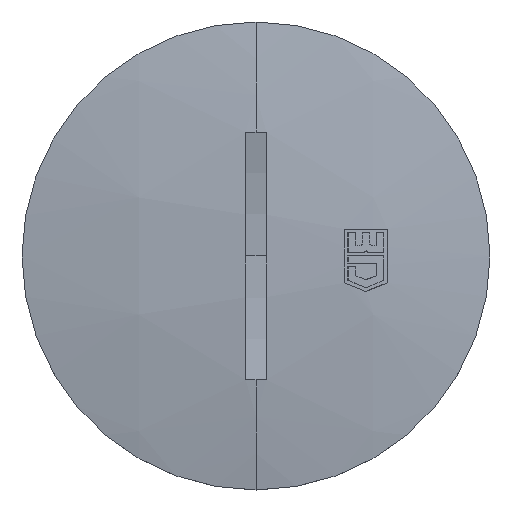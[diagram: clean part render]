
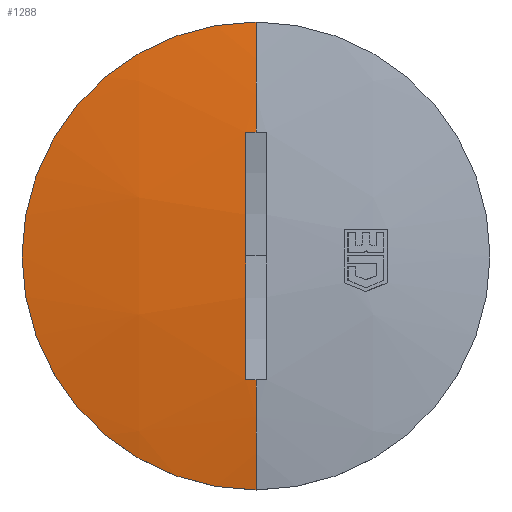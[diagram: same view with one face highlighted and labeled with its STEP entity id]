
A CAD part, top view. The second image highlights one B-rep face of the part: STEP entity #1288.
In plain terms, the highlighted spherical face has radius 127 mm.
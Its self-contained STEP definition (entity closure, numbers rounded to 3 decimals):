
#1 = CARTESIAN_POINT ( 'NONE',  ( -0.333, -11.913, 11.44 ) ) ;
#2 = DIRECTION ( 'NONE',  ( 0., 1., 0. ) ) ;
#3 = DIRECTION ( 'NONE',  ( 1., 0., 0. ) ) ;
#4 = CARTESIAN_POINT ( 'NONE',  ( 0., 0., -115. ) ) ;
#5 = AXIS2_PLACEMENT_3D ( 'NONE', #4, #3, #2 ) ;
#6 = CIRCLE ( 'NONE', #5, 127. ) ;
#7 = DIRECTION ( 'NONE',  ( 0., 1., 0. ) ) ;
#8 = DIRECTION ( 'NONE',  ( 1., 0., 0. ) ) ;
#9 = CARTESIAN_POINT ( 'NONE',  ( 0., 0., -115. ) ) ;
#10 = CIRCLE ( 'NONE', #21, 126.996 ) ;
#11 = B_SPLINE_CURVE_WITH_KNOTS ( 'NONE', 3,
 ( #18, #14, #1, #39 ),
 .UNSPECIFIED., .F., .F.,
 ( 4, 4 ),
 ( 0., 0.001 ),
 .UNSPECIFIED. ) ;
#12 = CARTESIAN_POINT ( 'NONE',  ( 0., 0., -115. ) ) ;
#14 = CARTESIAN_POINT ( 'NONE',  ( -0.667, -11.909, 11.439 ) ) ;
#16 = CIRCLE ( 'NONE', #26, 127. ) ;
#17 = DIRECTION ( 'NONE',  ( 0., 0., -1. ) ) ;
#18 = CARTESIAN_POINT ( 'NONE',  ( -1., -11.902, 11.437 ) ) ;
#19 = DIRECTION ( 'NONE',  ( -1., 0., 0. ) ) ;
#20 = CARTESIAN_POINT ( 'NONE',  ( -1., 0., -115. ) ) ;
#21 = AXIS2_PLACEMENT_3D ( 'NONE', #20, #19, #78 ) ;
#23 = AXIS2_PLACEMENT_3D ( 'NONE', #9, #8, #7 ) ;
#24 = FACE_OUTER_BOUND ( 'NONE', #1260, .T. ) ;
#26 = AXIS2_PLACEMENT_3D ( 'NONE', #12, #36, #37 ) ;
#29 = DIRECTION ( 'NONE',  ( 0., 1., 0. ) ) ;
#36 = DIRECTION ( 'NONE',  ( -1., 0., 0. ) ) ;
#37 = DIRECTION ( 'NONE',  ( 0., 0., 1. ) ) ;
#38 = SPHERICAL_SURFACE ( 'NONE', #23, 127. ) ;
#39 = CARTESIAN_POINT ( 'NONE',  ( 0., -11.913, 11.44 ) ) ;
#50 = CARTESIAN_POINT ( 'NONE',  ( -1., 11.902, 11.437 ) ) ;
#70 = CARTESIAN_POINT ( 'NONE',  ( 0., 11.913, 11.44 ) ) ;
#78 = DIRECTION ( 'NONE',  ( 0., 0., -1. ) ) ;
#97 = B_SPLINE_CURVE_WITH_KNOTS ( 'NONE', 3,
 ( #70, #103, #102, #50 ),
 .UNSPECIFIED., .F., .F.,
 ( 4, 4 ),
 ( 0.001, 0.002 ),
 .UNSPECIFIED. ) ;
#102 = CARTESIAN_POINT ( 'NONE',  ( -0.667, 11.909, 11.439 ) ) ;
#103 = CARTESIAN_POINT ( 'NONE',  ( -0.333, 11.913, 11.44 ) ) ;
#219 = CARTESIAN_POINT ( 'NONE',  ( -1., 11.902, 11.437 ) ) ;
#249 = CARTESIAN_POINT ( 'NONE',  ( 0., 11.913, 11.44 ) ) ;
#345 = CARTESIAN_POINT ( 'NONE',  ( 0., -22.5, 9.991 ) ) ;
#351 = CARTESIAN_POINT ( 'NONE',  ( 0., 22.5, 9.991 ) ) ;
#441 = CARTESIAN_POINT ( 'NONE',  ( 0., -11.913, 11.44 ) ) ;
#1103 = CARTESIAN_POINT ( 'NONE',  ( 0., 0., 9.991 ) ) ;
#1104 = AXIS2_PLACEMENT_3D ( 'NONE', #1103, #17, #29 ) ;
#1105 = CIRCLE ( 'NONE', #1104, 22.5 ) ;
#1252 = CARTESIAN_POINT ( 'NONE',  ( -1., -11.902, 11.437 ) ) ;
#1260 = EDGE_LOOP ( 'NONE', ( #1265, #1282, #1280, #1266, #1281, #1289 ) ) ;
#1265 = ORIENTED_EDGE ( 'NONE', *, *, #1286, .F. ) ;
#1266 = ORIENTED_EDGE ( 'NONE', *, *, #1354, .F. ) ;
#1268 = VERTEX_POINT ( 'NONE', #1252 ) ;
#1275 = EDGE_CURVE ( 'NONE', #1476, #1473, #1105, .T. ) ;
#1276 = EDGE_CURVE ( 'NONE', #1268, #1504, #11, .T. ) ;
#1279 = EDGE_CURVE ( 'NONE', #1392, #1473, #16, .T. ) ;
#1280 = ORIENTED_EDGE ( 'NONE', *, *, #1290, .T. ) ;
#1281 = ORIENTED_EDGE ( 'NONE', *, *, #1279, .T. ) ;
#1282 = ORIENTED_EDGE ( 'NONE', *, *, #1276, .F. ) ;
#1286 = EDGE_CURVE ( 'NONE', #1504, #1476, #6, .T. ) ;
#1288 = ADVANCED_FACE ( 'NONE', ( #24 ), #38, .T. ) ;
#1289 = ORIENTED_EDGE ( 'NONE', *, *, #1275, .F. ) ;
#1290 = EDGE_CURVE ( 'NONE', #1268, #1406, #10, .T. ) ;
#1354 = EDGE_CURVE ( 'NONE', #1392, #1406, #97, .T. ) ;
#1392 = VERTEX_POINT ( 'NONE', #249 ) ;
#1406 = VERTEX_POINT ( 'NONE', #219 ) ;
#1473 = VERTEX_POINT ( 'NONE', #351 ) ;
#1476 = VERTEX_POINT ( 'NONE', #345 ) ;
#1504 = VERTEX_POINT ( 'NONE', #441 ) ;
